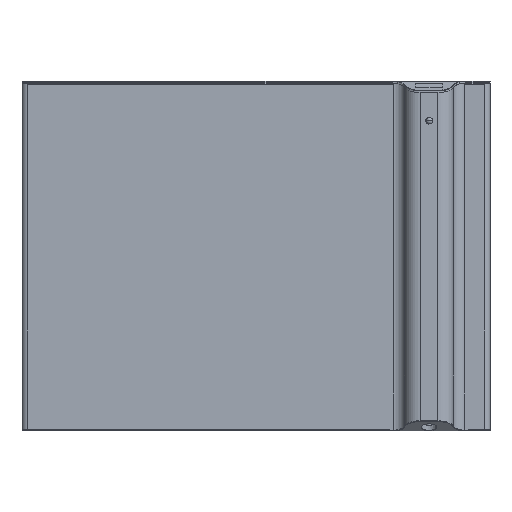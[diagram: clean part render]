
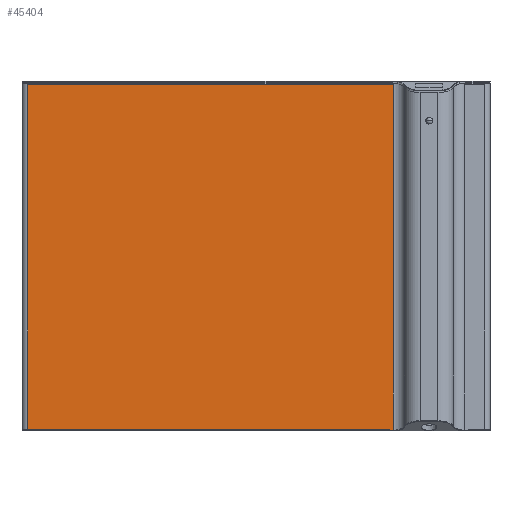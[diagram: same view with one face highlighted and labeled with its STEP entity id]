
A CAD part, top view. The second image highlights one B-rep face of the part: STEP entity #45404.
In plain terms, the highlighted planar face has unit normal (0, 0, 1).
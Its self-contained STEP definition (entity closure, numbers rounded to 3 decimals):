
#44854 = VERTEX_POINT('',#44855);
#44855 = CARTESIAN_POINT('',(198.062,-250.,30.));
#44873 = EDGE_CURVE('',#44854,#44874,#44876,.T.);
#44874 = VERTEX_POINT('',#44875);
#44875 = CARTESIAN_POINT('',(198.062,250.,30.));
#44876 = LINE('',#44877,#44878);
#44877 = CARTESIAN_POINT('',(198.062,-250.,30.));
#44878 = VECTOR('',#44879,1.);
#44879 = DIRECTION('',(0.,1.,0.));
#45134 = EDGE_CURVE('',#44874,#45135,#45137,.T.);
#45135 = VERTEX_POINT('',#45136);
#45136 = CARTESIAN_POINT('',(197.237,250.,30.));
#45137 = LINE('',#45138,#45139);
#45138 = CARTESIAN_POINT('',(198.062,250.,30.));
#45139 = VECTOR('',#45140,1.);
#45140 = DIRECTION('',(-1.,0.,0.));
#45326 = EDGE_CURVE('',#45327,#45329,#45331,.T.);
#45327 = VERTEX_POINT('',#45328);
#45328 = CARTESIAN_POINT('',(-329.046,-248.8,30.));
#45329 = VERTEX_POINT('',#45330);
#45330 = CARTESIAN_POINT('',(-329.5,-248.8,30.));
#45331 = LINE('',#45332,#45333);
#45332 = CARTESIAN_POINT('',(-329.046,-248.8,30.));
#45333 = VECTOR('',#45334,1.);
#45334 = DIRECTION('',(-1.,0.,0.));
#45386 = EDGE_CURVE('',#45327,#45387,#45389,.T.);
#45387 = VERTEX_POINT('',#45388);
#45388 = CARTESIAN_POINT('',(-329.046,-250.3,30.));
#45389 = LINE('',#45390,#45391);
#45390 = CARTESIAN_POINT('',(-329.046,-248.8,30.));
#45391 = VECTOR('',#45392,1.);
#45392 = DIRECTION('',(0.,-1.,0.));
#45404 = ADVANCED_FACE('',(#45405),#45479,.T.);
#45405 = FACE_BOUND('',#45406,.F.);
#45406 = EDGE_LOOP('',(#45407,#45408,#45416,#45424,#45432,#45440,#45446,
    #45447,#45448,#45456,#45464,#45472,#45478));
#45407 = ORIENTED_EDGE('',*,*,#45326,.T.);
#45408 = ORIENTED_EDGE('',*,*,#45409,.F.);
#45409 = EDGE_CURVE('',#45410,#45329,#45412,.T.);
#45410 = VERTEX_POINT('',#45411);
#45411 = CARTESIAN_POINT('',(-329.5,250.,30.));
#45412 = LINE('',#45413,#45414);
#45413 = CARTESIAN_POINT('',(-329.5,250.,30.));
#45414 = VECTOR('',#45415,1.);
#45415 = DIRECTION('',(0.,-1.,0.));
#45416 = ORIENTED_EDGE('',*,*,#45417,.T.);
#45417 = EDGE_CURVE('',#45410,#45418,#45420,.T.);
#45418 = VERTEX_POINT('',#45419);
#45419 = CARTESIAN_POINT('',(-328.937,250.,30.));
#45420 = LINE('',#45421,#45422);
#45421 = CARTESIAN_POINT('',(-329.5,250.,30.));
#45422 = VECTOR('',#45423,1.);
#45423 = DIRECTION('',(1.,0.,0.));
#45424 = ORIENTED_EDGE('',*,*,#45425,.T.);
#45425 = EDGE_CURVE('',#45418,#45426,#45428,.T.);
#45426 = VERTEX_POINT('',#45427);
#45427 = CARTESIAN_POINT('',(-328.5,248.8,30.));
#45428 = LINE('',#45429,#45430);
#45429 = CARTESIAN_POINT('',(-328.937,250.,30.));
#45430 = VECTOR('',#45431,1.);
#45431 = DIRECTION('',(0.342,-0.94,0.));
#45432 = ORIENTED_EDGE('',*,*,#45433,.F.);
#45433 = EDGE_CURVE('',#45434,#45426,#45436,.T.);
#45434 = VERTEX_POINT('',#45435);
#45435 = CARTESIAN_POINT('',(196.8,248.8,30.));
#45436 = LINE('',#45437,#45438);
#45437 = CARTESIAN_POINT('',(196.8,248.8,30.));
#45438 = VECTOR('',#45439,1.);
#45439 = DIRECTION('',(-1.,0.,0.));
#45440 = ORIENTED_EDGE('',*,*,#45441,.F.);
#45441 = EDGE_CURVE('',#45135,#45434,#45442,.T.);
#45442 = LINE('',#45443,#45444);
#45443 = CARTESIAN_POINT('',(197.237,250.,30.));
#45444 = VECTOR('',#45445,1.);
#45445 = DIRECTION('',(-0.342,-0.94,0.));
#45446 = ORIENTED_EDGE('',*,*,#45134,.F.);
#45447 = ORIENTED_EDGE('',*,*,#44873,.F.);
#45448 = ORIENTED_EDGE('',*,*,#45449,.T.);
#45449 = EDGE_CURVE('',#44854,#45450,#45452,.T.);
#45450 = VERTEX_POINT('',#45451);
#45451 = CARTESIAN_POINT('',(192.937,-250.,30.));
#45452 = LINE('',#45453,#45454);
#45453 = CARTESIAN_POINT('',(198.062,-250.,30.));
#45454 = VECTOR('',#45455,1.);
#45455 = DIRECTION('',(-1.,0.,0.));
#45456 = ORIENTED_EDGE('',*,*,#45457,.T.);
#45457 = EDGE_CURVE('',#45450,#45458,#45460,.T.);
#45458 = VERTEX_POINT('',#45459);
#45459 = CARTESIAN_POINT('',(192.5,-248.8,30.));
#45460 = LINE('',#45461,#45462);
#45461 = CARTESIAN_POINT('',(192.937,-250.,30.));
#45462 = VECTOR('',#45463,1.);
#45463 = DIRECTION('',(-0.342,0.94,0.));
#45464 = ORIENTED_EDGE('',*,*,#45465,.F.);
#45465 = EDGE_CURVE('',#45466,#45458,#45468,.T.);
#45466 = VERTEX_POINT('',#45467);
#45467 = CARTESIAN_POINT('',(-328.5,-248.8,30.));
#45468 = LINE('',#45469,#45470);
#45469 = CARTESIAN_POINT('',(-328.5,-248.8,30.));
#45470 = VECTOR('',#45471,1.);
#45471 = DIRECTION('',(1.,0.,0.));
#45472 = ORIENTED_EDGE('',*,*,#45473,.F.);
#45473 = EDGE_CURVE('',#45387,#45466,#45474,.T.);
#45474 = LINE('',#45475,#45476);
#45475 = CARTESIAN_POINT('',(-329.046,-250.3,30.));
#45476 = VECTOR('',#45477,1.);
#45477 = DIRECTION('',(0.342,0.94,0.));
#45478 = ORIENTED_EDGE('',*,*,#45386,.F.);
#45479 = PLANE('',#45480);
#45480 = AXIS2_PLACEMENT_3D('',#45481,#45482,#45483);
#45481 = CARTESIAN_POINT('',(-337.5,-250.,30.));
#45482 = DIRECTION('',(0.,0.,1.));
#45483 = DIRECTION('',(1.,0.,-0.));
